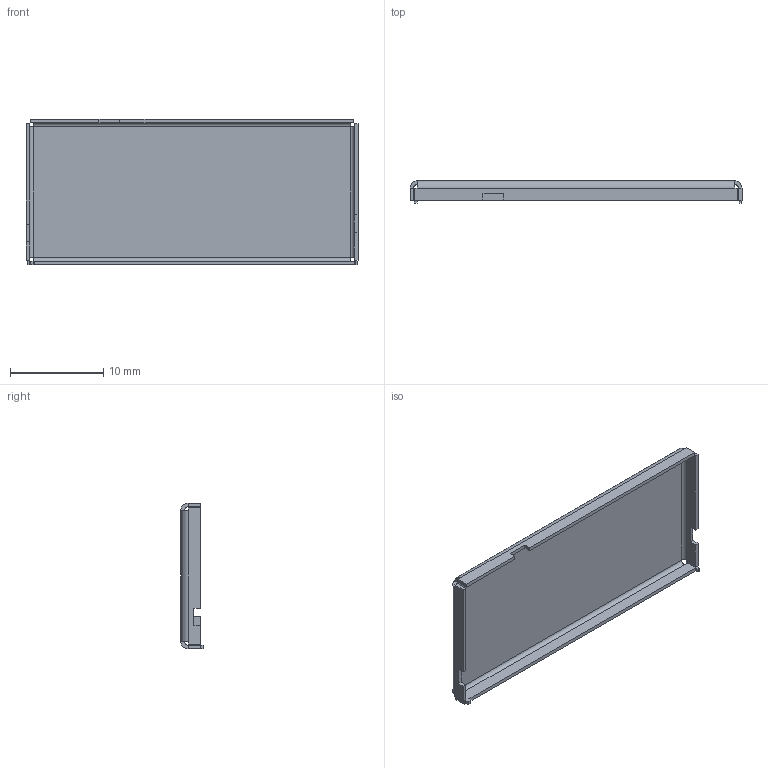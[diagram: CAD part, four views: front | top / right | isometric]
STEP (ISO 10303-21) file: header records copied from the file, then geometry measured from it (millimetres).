
FILE_DESCRIPTION(/* description */ (''),/* implementation_level */ '2;1');
FILE_NAME(/* name */ 'C:/projects/cariboulite_hardware/src/manufacturing/rev2/assembly/dxf/top (2).step',/* time_stamp */ '2022-01-06T17:41:57+02:00',/* author */ (''),/* organization */ (''),/* preprocessor_version */ 'ST-DEVELOPER v18.1',/* originating_system */ 'Autodesk Translation Framework v10.10.0.1391',/* authorisation */ '');
FILE_SCHEMA (('AUTOMOTIVE_DESIGN { 1 0 10303 214 3 1 1 }'));
Length unit declared in the file: millimetre
Products named in the file (1): top (2)
Bounding box: 35.55 x 2.4 x 15.61 mm (x, y, z)
Volume: 276.3 mm3; surface area: 1431.7 mm2
Topology: 1 solids, 1 shells, 64 faces, 154 edges, 92 vertices
Faces by surface type: plane 56, cylinder 8
Entity records: 1831 total; most frequent: CARTESIAN_POINT 311, ORIENTED_EDGE 308, DIRECTION 300, EDGE_CURVE 154, LINE 138, VECTOR 138, VERTEX_POINT 92, AXIS2_PLACEMENT_3D 81
